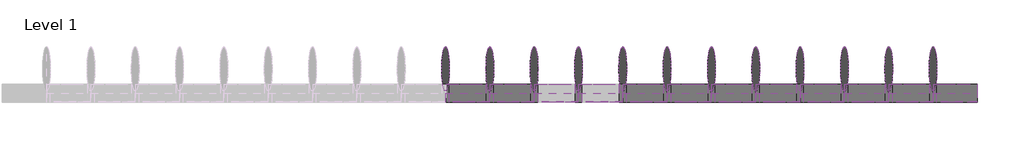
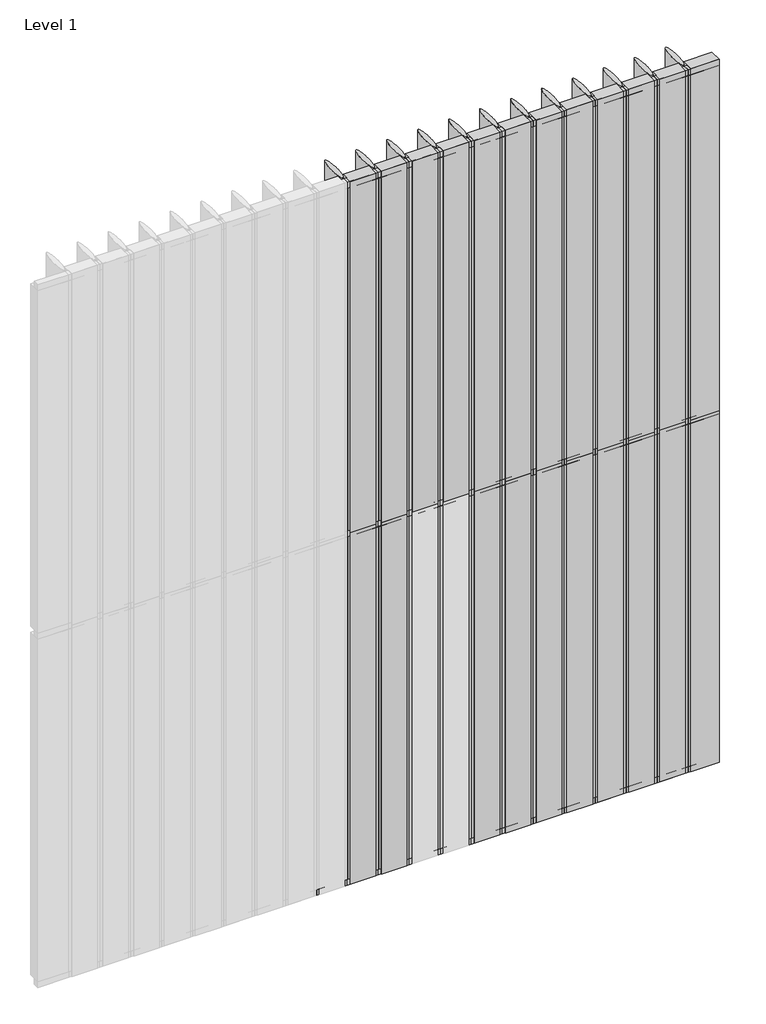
# One storey, part 2 of 2: 61 members, 46 plates.
"""IFC4 building model written with IfcOpenShell, lengths in millimetres."""

import ifcopenshell
import ifcopenshell.guid

model = None  # the IFC model being written
_history = None  # IfcOwnerHistory: only IFC2X3 demands one
_inside = {}  # id of a spatial element -> (the spatial element, [elements in it])
_under = {}  # id of a project, library or spatial element -> (it, [spatial elements below it])
_declared = {}  # id of a project -> (the project, [libraries it declares])
_typed = {}  # id of a type object -> (the type object, [elements of that type])
_made_of = {}  # id of a material, layer set ... -> (it, [elements and type objects made of it])


def new_model(schema):
    """Start an empty IFC model of exactly this schema.

    Asked for "IFC4X3", IfcOpenShell would pick the latest addendum, in which some entities
    have other attributes; the version numbers below select the first issue.
    IFC2X3 requires an IfcOwnerHistory on every rooted entity: one is made here for all.
    """
    global model, _history
    if schema == "IFC4X3":
        model = ifcopenshell.file(schema_version=(4, 3, 0, 0))
    else:
        model = ifcopenshell.file(schema=schema)
    _inside.clear()
    _under.clear()
    _declared.clear()
    _typed.clear()
    _made_of.clear()
    _history = None
    if model.schema == "IFC2X3":
        org = make("IfcOrganization", Name="unknown")
        user = make(
            "IfcPersonAndOrganization",
            ThePerson=make("IfcPerson", FamilyName="unknown"),
            TheOrganization=org,
        )
        app = make(
            "IfcApplication",
            ApplicationDeveloper=org,
            Version="unknown",
            ApplicationFullName="unknown",
            ApplicationIdentifier="unknown",
        )
        _history = make(
            "IfcOwnerHistory",
            OwningUser=user,
            OwningApplication=app,
            ChangeAction="ADDED",
            CreationDate=0,
        )
    return model


def make(cls, **values):
    """One entity of the class cls with the attributes given. An attribute that is None is left unset."""
    return model.create_entity(
        cls, **{name: value for name, value in values.items() if value is not None}
    )


def rooted(cls, **values):
    """An entity with a GlobalId (a new one), such as an element, a storey or a relation."""
    return make(cls, GlobalId=ifcopenshell.guid.new(), OwnerHistory=_history, **values)


def si_unit(unit_type, name, prefix=None):
    """IfcSIUnit, for example si_unit("LENGTHUNIT", "METRE", prefix="MILLI")."""
    return make("IfcSIUnit", UnitType=unit_type, Prefix=prefix, Name=name)


def assignment(units):
    """IfcUnitAssignment: the units of a project."""
    return None if units is None else make("IfcUnitAssignment", Units=units)


def point(xyz):
    """IfcCartesianPoint."""
    return None if xyz is None else make("IfcCartesianPoint", Coordinates=xyz)


def direction(xyz):
    """IfcDirection."""
    return None if xyz is None else make("IfcDirection", DirectionRatios=xyz)


def frame(location, z_axis=None, x_axis=None):
    """IfcAxis2Placement3D, a coordinate frame: its origin and axes. An axis left out is left unset."""
    return make(
        "IfcAxis2Placement3D",
        Location=point(location),
        Axis=direction(z_axis),
        RefDirection=direction(x_axis),
    )


def origin():
    """The frame at (0, 0, 0) with its axes left unset."""
    return frame((0.0, 0.0, 0.0))


def origin_with_axes():
    """The frame at (0, 0, 0) with the z axis (0, 0, 1) and the x axis (1, 0, 0) written out."""
    return frame((0.0, 0.0, 0.0), z_axis=(0.0, 0.0, 1.0), x_axis=(1.0, 0.0, 0.0))


def place(relative_to, where):
    """IfcLocalPlacement: puts the frame where relative to a parent placement (None: the world)."""
    return make(
        "IfcLocalPlacement", PlacementRelTo=relative_to, RelativePlacement=where
    )


def context(
    kind, dimensions, precision=None, world=None, true_north=None, identifier=None
):
    """IfcGeometricRepresentationContext, for example the 3D "Model" context."""
    return make(
        "IfcGeometricRepresentationContext",
        ContextIdentifier=identifier,
        ContextType=kind,
        CoordinateSpaceDimension=dimensions,
        Precision=precision,
        WorldCoordinateSystem=world,
        TrueNorth=true_north,
    )


def project(units=None, contexts=None):
    """IfcProject with its units and contexts."""
    return rooted(
        "IfcProject",
        Name="project",
        RepresentationContexts=contexts,
        UnitsInContext=assignment(units),
    )


def spatial(cls, under=None, at=None, **own):
    """A site, building, storey or space (cls), placed at a placement, below another one or the project."""
    s = rooted(cls, ObjectPlacement=at, **own)
    if under is not None:
        _under.setdefault(under.id(), (under, []))[1].append(s)
    return s


def polyline(points):
    """IfcPolyline through the points."""
    return make("IfcPolyline", Points=[point(p) for p in points])


def ellipse_curve(where, semi_axis1, semi_axis2):
    """IfcEllipse in the frame where."""
    return make(
        "IfcEllipse", Position=where, SemiAxis1=semi_axis1, SemiAxis2=semi_axis2
    )


def trimmed(basis, trim1, trim2, sense, master):
    """IfcTrimmedCurve: the piece of a basis curve between two trims."""
    return make(
        "IfcTrimmedCurve",
        BasisCurve=basis,
        Trim1=trim1,
        Trim2=trim2,
        SenseAgreement=sense,
        MasterRepresentation=master,
    )


def outline(outer, holes=None, kind="AREA"):
    """IfcArbitraryClosedProfileDef: a profile drawn as a closed curve; with holes, ...WithVoids."""
    if holes is None:
        return make("IfcArbitraryClosedProfileDef", ProfileType=kind, OuterCurve=outer)
    return make(
        "IfcArbitraryProfileDefWithVoids",
        ProfileType=kind,
        OuterCurve=outer,
        InnerCurves=holes,
    )


def extrude(swept, where, along, depth):
    """IfcExtrudedAreaSolid: the profile swept, set in the frame where, extruded along a direction by depth."""
    return make(
        "IfcExtrudedAreaSolid",
        SweptArea=swept,
        Position=where,
        ExtrudedDirection=direction(along),
        Depth=depth,
    )


def shape(context_of_items, identifier, shape_type, items):
    """IfcShapeRepresentation: the items that make up one representation, for example the "Body"."""
    return make(
        "IfcShapeRepresentation",
        ContextOfItems=context_of_items,
        RepresentationIdentifier=identifier,
        RepresentationType=shape_type,
        Items=items,
    )


def source(mapping_origin, context_of_items, identifier, shape_type, items):
    """IfcRepresentationMap: a shape defined once, which mapped items show again and again."""
    return make(
        "IfcRepresentationMap",
        MappingOrigin=mapping_origin,
        MappedRepresentation=shape(context_of_items, identifier, shape_type, items),
    )


def transform(
    local_origin,
    x_axis=None,
    y_axis=None,
    z_axis=None,
    scale=None,
    scale2=None,
    scale3=None,
    uniform=True,
):
    """IfcCartesianTransformationOperator3D, or its non-uniform kind. x_axis, y_axis, z_axis: its Axis1, 2, 3."""
    if uniform:
        return make(
            "IfcCartesianTransformationOperator3D",
            Axis1=direction(x_axis),
            Axis2=direction(y_axis),
            LocalOrigin=point(local_origin),
            Scale=scale,
            Axis3=direction(z_axis),
        )
    return make(
        "IfcCartesianTransformationOperator3DnonUniform",
        Axis1=direction(x_axis),
        Axis2=direction(y_axis),
        LocalOrigin=point(local_origin),
        Scale=scale,
        Axis3=direction(z_axis),
        Scale2=scale2,
        Scale3=scale3,
    )


def mapped(mapping_source, mapping_target):
    """IfcMappedItem: shows the shape of a source again, moved by a transform."""
    return make(
        "IfcMappedItem", MappingSource=mapping_source, MappingTarget=mapping_target
    )


def made_of(thing, what):
    """Note that an element or type object is made of a material, layer set ...; save() writes the relation."""
    if what is not None:
        _made_of.setdefault(what.id(), (what, []))[1].append(thing)
    return thing


def element(
    cls,
    number,
    at=None,
    inside=None,
    cuts=None,
    type_object=None,
    material=None,
    context=None,
    identifier="Body",
    shape_type=None,
    held_by="IfcProductDefinitionShape",
    body=None,
    shapes=None,
    **own,
):
    """One element of the class cls, such as IfcWall. Its Tag is "e" and its number.

    at: its placement. inside: the storey or other place that contains it. cuts: it is an
    opening in that element (IfcRelVoidsElement). A single representation is given by context,
    identifier, shape_type and body (its items); several are given by shapes. held_by: the class
    of the entity that holds the representations. save() writes the other relations.
    """
    e = rooted(cls, Tag="e%d" % number, ObjectPlacement=at, **own)
    if body is not None:
        shapes = [shape(context, identifier, shape_type, body)]
    if shapes is not None:
        e.Representation = make(held_by, Representations=shapes)
    if inside is not None:
        _inside.setdefault(inside.id(), (inside, []))[1].append(e)
    if cuts is not None:
        rooted(
            "IfcRelVoidsElement", RelatingBuildingElement=cuts, RelatedOpeningElement=e
        )
    if type_object is not None:
        _typed.setdefault(type_object.id(), (type_object, []))[1].append(e)
    return made_of(e, material)


def aggregate(whole, parts):
    """IfcRelAggregates: a whole, such as a stair, and the parts it consists of."""
    return rooted("IfcRelAggregates", RelatingObject=whole, RelatedObjects=parts)


def save(model, path):
    """Write the relations noted so far, then the file.

    IfcRelAggregates (storeys below a building ...), IfcRelContainedInSpatialStructure (elements
    in a storey), IfcRelDefinesByType, IfcRelAssociatesMaterial and IfcRelDeclares: one each for
    every whole, place, type object, material and project.
    """
    for whole, parts in _under.values():
        aggregate(whole, parts)
    for where, things in _inside.values():
        rooted(
            "IfcRelContainedInSpatialStructure",
            RelatedElements=things,
            RelatingStructure=where,
        )
    for kind, things in _typed.values():
        rooted("IfcRelDefinesByType", RelatedObjects=things, RelatingType=kind)
    for what, things in _made_of.values():
        rooted("IfcRelAssociatesMaterial", RelatedObjects=things, RelatingMaterial=what)
    for by, libraries in _declared.values():
        rooted("IfcRelDeclares", RelatingContext=by, RelatedDefinitions=libraries)
    model.write(path)


def plane_surface(at):
    """IfcPlane: the flat surface through the origin of the frame at, square to its z axis."""
    return make("IfcPlane", Position=at)


def extruded_surface(curve, direction_of_extrusion, depth):
    """IfcSurfaceOfLinearExtrusion: the curve pushed along a direction by depth."""
    return make(
        "IfcSurfaceOfLinearExtrusion",
        SweptCurve=make("IfcArbitraryOpenProfileDef", ProfileType="CURVE", Curve=curve),
        ExtrudedDirection=direction(direction_of_extrusion),
        Depth=depth,
    )


def advanced_brep(points, edges, surfaces, faces):
    """IfcAdvancedBrep: a solid bounded by faces that lie on surfaces and meet in shared edges.

    An edge is (start, end): straight between two places in points (the first is 0);
    or (start, end, curve); or (start, end, curve, False) where it runs against its curve.
    A face is (place in surfaces, loops), or (place, loops, False) where it looks against
    its surface's normal. A loop lists edges by number (the first is 1), with a minus sign
    where the edge is run from its end to its start. The first loop is the outer one.
    """
    corners = [point(p) for p in points]
    vertices = [make("IfcVertexPoint", VertexGeometry=c) for c in corners]
    made = []
    for start, end, *more in edges:
        made.append(
            make(
                "IfcEdgeCurve",
                EdgeStart=vertices[start],
                EdgeEnd=vertices[end],
                EdgeGeometry=more[0] if more else make("IfcPolyline", Points=[corners[start], corners[end]]),
                SameSense=more[1] if len(more) > 1 else True,
            )
        )
    hull = []
    for where, loops, *sense in faces:
        bounds = []
        for j, loop in enumerate(loops):
            ring = [make("IfcOrientedEdge", EdgeElement=made[abs(k) - 1], Orientation=k > 0) for k in loop]
            bounds.append(
                make(
                    "IfcFaceOuterBound" if j == 0 else "IfcFaceBound",
                    Bound=make("IfcEdgeLoop", EdgeList=ring),
                    Orientation=True,
                )
            )
        hull.append(make("IfcAdvancedFace", Bounds=bounds, FaceSurface=surfaces[where], SameSense=sense[0] if sense else True))
    return make("IfcAdvancedBrep", Outer=make("IfcClosedShell", CfsFaces=hull))


def rectangular_mullion_1c901da9(model_context):
    return source(origin(), model_context, "Body", "AdvancedBrep", [
        advanced_brep(
        [(0.0, 13.0, 0.0), (0.0, 263.0, 0.0), (0.0, 13.0, -3000.0), (0.0, 263.0, -3000.0)],
        [
            (0, 1, ellipse_curve(frame((0.0, 138.0, 0.0), z_axis=(0.0, 0.0, 1.0), x_axis=(0.0, 1.0, 0.0)), 125.0, 21.75)),
            (1, 0, ellipse_curve(frame((0.0, 138.0, 0.0), z_axis=(0.0, 0.0, 1.0), x_axis=(0.0, 1.0, 0.0)), 125.0, 21.75)),
            (2, 3, ellipse_curve(frame((0.0, 138.0, -3000.0), z_axis=(0.0, 0.0, -1.0), x_axis=(0.0, 1.0, 0.0)), 125.0, 21.75)),
            (3, 2, ellipse_curve(frame((0.0, 138.0, -3000.0), z_axis=(0.0, 0.0, -1.0), x_axis=(0.0, 1.0, 0.0)), 125.0, 21.75)),
            (0, 2),
            (3, 1),
        ],
        [
            plane_surface(frame((0.0, -263.0, 0.0), z_axis=(0.0, 0.0, 1.0), x_axis=(-1.0, 0.0, 0.0))),
            plane_surface(frame((0.0, -263.0, -3000.0), z_axis=(0.0, 0.0, -1.0), x_axis=(-1.0, 0.0, 0.0))),
            extruded_surface(trimmed(ellipse_curve(frame((0.0, 138.0, -3000.0), z_axis=(0.0, 0.0, 1.0), x_axis=(0.0, 1.0, 0.0)), 125.0, 21.75), [point((0.0, 13.0, -3000.0))], [point((0.0, 263.0, -3000.0))], True, "CARTESIAN"), (0.0, 0.0, 3000.0), 3000.0),
            extruded_surface(trimmed(ellipse_curve(frame((0.0, 138.0, -3000.0), z_axis=(0.0, 0.0, 1.0), x_axis=(0.0, 1.0, 0.0)), 125.0, 21.75), [point((0.0, 263.0, -3000.0))], [point((0.0, 13.0, -3000.0))], True, "CARTESIAN"), (0.0, 0.0, 3000.0), 3000.0),
        ],
        [
            (0, [[1, 2]]),
            (1, [[3, 4]]),
            (2, [[-1, 5, -4, 6]]),
            (3, [[-2, -6, -3, -5]]),
        ],
    ),
    ])


def rectangular_mullion_b779000f(model_context):
    return source(origin(), model_context, "Body", "SweptSolid", [
        extrude(outline(polyline([(-50.0, 1.0), (0.0, 1.0), (0.0, -49.0), (-50.0, -49.0), (-50.0, 1.0)])), frame((0.0, 0.0, -250.0), z_axis=(0.0, 0.0, 1.0), x_axis=(1.0, 0.0, 0.0)), (0.0, 0.0, 1.0), 250.0),
    ])


def rectangular_mullion_eeaea343(model_context):
    return source(origin(), model_context, "Body", "SweptSolid", [
        extrude(outline(polyline([(0.0, 1.0), (0.0, -49.0), (-50.0, -49.0), (-50.0, 1.0), (0.0, 1.0)])), frame((0.0, 0.0, -250.0), z_axis=(0.0, 0.0, 1.0), x_axis=(1.0, 0.0, 0.0)), (0.0, 0.0, 1.0), 250.0),
    ])


def rectangular_mullion_552ac5bc(model_context):
    return source(origin(), model_context, "Body", "SweptSolid", [
        extrude(outline(polyline([(25.0, 1.0), (25.0, -49.0), (-25.0, -49.0), (-25.0, 1.0), (25.0, 1.0)])), frame((0.0, 0.0, -250.0), z_axis=(0.0, 0.0, 1.0), x_axis=(1.0, 0.0, 0.0)), (0.0, 0.0, 1.0), 250.0),
    ])


def empty_system_panel_empty_666dd941(model_context):
    return source(origin(), model_context, "Body", "SweptSolid", [
        extrude(outline(polyline([(114.125, -50.0), (-114.125, -50.0), (-114.125, 50.0), (114.125, 50.0), (114.125, -50.0)])), origin_with_axes(), (0.0, 0.0, 1.0), 3000.0),
    ])


def empty_system_panel_empty_d58eecfa(model_context):
    return source(origin(), model_context, "Body", "SweptSolid", [
        extrude(outline(polyline([(103.25, -50.0), (-103.25, -50.0), (-103.25, 50.0), (103.25, 50.0), (103.25, -50.0)])), origin_with_axes(), (0.0, 0.0, 1.0), 3000.0),
    ])


def empty_system_panel_empty_93422e2e(model_context):
    return source(origin(), model_context, "Body", "SweptSolid", [
        extrude(outline(polyline([(125.0, -50.0), (-125.0, -50.0), (-125.0, 50.0), (125.0, 50.0), (125.0, -50.0)])), origin_with_axes(), (0.0, 0.0, 1.0), 2925.0),
    ])


model = new_model("IFC4")

# Units and contexts
model_context = context("Model", 3, world=origin())
ifc_project = project(units=[si_unit("LENGTHUNIT", "METRE", prefix="MILLI")], contexts=[model_context])

# Site, building, storey
site = spatial("IfcSite", under=ifc_project)
building = spatial("IfcBuilding", under=site)
storey = spatial("IfcBuildingStorey", under=building, Name="Level 1", Elevation=0.0)

# Members
placement = place(None, origin())
rectangular_mullion_shape = rectangular_mullion_1c901da9(model_context)
element("IfcMember", 1, ObjectType="Rectangular Mullion : RSen_21_CWM_blade - 250 ellips - 0°_gen_duco projects", at=placement, inside=storey, context=model_context, shape_type="MappedRepresentation", body=[
    mapped(rectangular_mullion_shape, transform((5750.0, 3000.0, 0.0), x_axis=(-1.0, 0.0, 0.0), y_axis=(0.0, 1.0, 0.0), z_axis=(0.0, 0.0, -1.0))),
])
element("IfcMember", 2, ObjectType="Rectangular Mullion : RSen_21_CWM_blade - 250 ellips - 0°_gen_duco projects", at=placement, inside=storey, context=model_context, shape_type="MappedRepresentation", body=[
    mapped(rectangular_mullion_shape, transform((5500.0, 3000.0, 0.0), x_axis=(-1.0, 0.0, 0.0), y_axis=(0.0, 1.0, 0.0), z_axis=(0.0, 0.0, -1.0))),
])
element("IfcMember", 3, ObjectType="Rectangular Mullion : RSen_21_CWM_blade - 250 ellips - 0°_gen_duco projects", at=placement, inside=storey, context=model_context, shape_type="MappedRepresentation", body=[
    mapped(rectangular_mullion_shape, transform((5250.0, 3000.0, 0.0), x_axis=(-1.0, 0.0, 0.0), y_axis=(0.0, 1.0, 0.0), z_axis=(0.0, 0.0, -1.0))),
])
element("IfcMember", 4, ObjectType="Rectangular Mullion : RSen_21_CWM_blade - 250 ellips - 0°_gen_duco projects", at=placement, inside=storey, context=model_context, shape_type="MappedRepresentation", body=[
    mapped(rectangular_mullion_shape, transform((5000.0, 3000.0, 0.0), x_axis=(-1.0, 0.0, 0.0), y_axis=(0.0, 1.0, 0.0), z_axis=(0.0, 0.0, -1.0))),
])
element("IfcMember", 5, ObjectType="Rectangular Mullion : RSen_21_CWM_blade - 250 ellips - 0°_gen_duco projects", at=placement, inside=storey, context=model_context, shape_type="MappedRepresentation", body=[
    mapped(rectangular_mullion_shape, transform((4750.0, 3000.0, 0.0), x_axis=(-1.0, 0.0, 0.0), y_axis=(0.0, 1.0, 0.0), z_axis=(0.0, 0.0, -1.0))),
])
element("IfcMember", 6, ObjectType="Rectangular Mullion : RSen_21_CWM_blade - 250 ellips - 0°_gen_duco projects", at=placement, inside=storey, context=model_context, shape_type="MappedRepresentation", body=[
    mapped(rectangular_mullion_shape, transform((4500.0, 3000.0, 0.0), x_axis=(-1.0, 0.0, 0.0), y_axis=(0.0, 1.0, 0.0), z_axis=(0.0, 0.0, -1.0))),
])
element("IfcMember", 7, ObjectType="Rectangular Mullion : RSen_21_CWM_blade - 250 ellips - 0°_gen_duco projects", at=placement, inside=storey, context=model_context, shape_type="MappedRepresentation", body=[
    mapped(rectangular_mullion_shape, transform((4250.0, 3000.0, 0.0), x_axis=(-1.0, 0.0, 0.0), y_axis=(0.0, 1.0, 0.0), z_axis=(0.0, 0.0, -1.0))),
])
element("IfcMember", 8, ObjectType="Rectangular Mullion : RSen_21_CWM_blade - 250 ellips - 0°_gen_duco projects", at=placement, inside=storey, context=model_context, shape_type="MappedRepresentation", body=[
    mapped(rectangular_mullion_shape, transform((4000.0, 3000.0, 0.0), x_axis=(-1.0, 0.0, 0.0), y_axis=(0.0, 1.0, 0.0), z_axis=(0.0, 0.0, -1.0))),
])
element("IfcMember", 9, ObjectType="Rectangular Mullion : RSen_21_CWM_blade - 250 ellips - 0°_gen_duco projects", at=placement, inside=storey, context=model_context, shape_type="MappedRepresentation", body=[
    mapped(rectangular_mullion_shape, transform((3750.0, 3000.0, 0.0), x_axis=(-1.0, 0.0, 0.0), y_axis=(0.0, 1.0, 0.0), z_axis=(0.0, 0.0, -1.0))),
])
element("IfcMember", 10, ObjectType="Rectangular Mullion : RSen_21_CWM_blade - 250 ellips - 0°_gen_duco projects", at=placement, inside=storey, context=model_context, shape_type="MappedRepresentation", body=[
    mapped(rectangular_mullion_shape, transform((3500.0, 3000.0, 0.0), x_axis=(-1.0, 0.0, 0.0), y_axis=(0.0, 1.0, 0.0), z_axis=(0.0, 0.0, -1.0))),
])
element("IfcMember", 11, ObjectType="Rectangular Mullion : RSen_21_CWM_blade - 250 ellips - 0°_gen_duco projects", at=placement, inside=storey, context=model_context, shape_type="MappedRepresentation", body=[
    mapped(rectangular_mullion_shape, transform((3250.0, 3000.0, 0.0), x_axis=(-1.0, 0.0, 0.0), y_axis=(0.0, 1.0, 0.0), z_axis=(0.0, 0.0, -1.0))),
])
element("IfcMember", 12, ObjectType="Rectangular Mullion : RSen_21_CWM_blade - 250 ellips - 0°_gen_duco projects", at=placement, inside=storey, context=model_context, shape_type="MappedRepresentation", body=[
    mapped(rectangular_mullion_shape, transform((3000.0, 3000.0, 0.0), x_axis=(-1.0, 0.0, 0.0), y_axis=(0.0, 1.0, 0.0), z_axis=(0.0, 0.0, -1.0))),
])
element("IfcMember", 13, ObjectType="Rectangular Mullion : RSen_21_CWM_blade - 250 ellips - 0°_gen_duco projects", at=placement, inside=storey, context=model_context, shape_type="MappedRepresentation", body=[
    mapped(rectangular_mullion_shape, transform((5750.0, 3000.0, 3000.0), x_axis=(-1.0, 0.0, 0.0), y_axis=(0.0, 1.0, 0.0), z_axis=(0.0, 0.0, -1.0))),
])
element("IfcMember", 14, ObjectType="Rectangular Mullion : RSen_21_CWM_blade - 250 ellips - 0°_gen_duco projects", at=placement, inside=storey, context=model_context, shape_type="MappedRepresentation", body=[
    mapped(rectangular_mullion_shape, transform((5500.0, 3000.0, 3000.0), x_axis=(-1.0, 0.0, 0.0), y_axis=(0.0, 1.0, 0.0), z_axis=(0.0, 0.0, -1.0))),
])
element("IfcMember", 15, ObjectType="Rectangular Mullion : RSen_21_CWM_blade - 250 ellips - 0°_gen_duco projects", at=placement, inside=storey, context=model_context, shape_type="MappedRepresentation", body=[
    mapped(rectangular_mullion_shape, transform((5250.0, 3000.0, 3000.0), x_axis=(-1.0, 0.0, 0.0), y_axis=(0.0, 1.0, 0.0), z_axis=(0.0, 0.0, -1.0))),
])
element("IfcMember", 16, ObjectType="Rectangular Mullion : RSen_21_CWM_blade - 250 ellips - 0°_gen_duco projects", at=placement, inside=storey, context=model_context, shape_type="MappedRepresentation", body=[
    mapped(rectangular_mullion_shape, transform((5000.0, 3000.0, 3000.0), x_axis=(-1.0, 0.0, 0.0), y_axis=(0.0, 1.0, 0.0), z_axis=(0.0, 0.0, -1.0))),
])
element("IfcMember", 17, ObjectType="Rectangular Mullion : RSen_21_CWM_blade - 250 ellips - 0°_gen_duco projects", at=placement, inside=storey, context=model_context, shape_type="MappedRepresentation", body=[
    mapped(rectangular_mullion_shape, transform((4750.0, 3000.0, 3000.0), x_axis=(-1.0, 0.0, 0.0), y_axis=(0.0, 1.0, 0.0), z_axis=(0.0, 0.0, -1.0))),
])
element("IfcMember", 18, ObjectType="Rectangular Mullion : RSen_21_CWM_blade - 250 ellips - 0°_gen_duco projects", at=placement, inside=storey, context=model_context, shape_type="MappedRepresentation", body=[
    mapped(rectangular_mullion_shape, transform((4500.0, 3000.0, 3000.0), x_axis=(-1.0, 0.0, 0.0), y_axis=(0.0, 1.0, 0.0), z_axis=(0.0, 0.0, -1.0))),
])
element("IfcMember", 19, ObjectType="Rectangular Mullion : RSen_21_CWM_blade - 250 ellips - 0°_gen_duco projects", at=placement, inside=storey, context=model_context, shape_type="MappedRepresentation", body=[
    mapped(rectangular_mullion_shape, transform((4250.0, 3000.0, 3000.0), x_axis=(-1.0, 0.0, 0.0), y_axis=(0.0, 1.0, 0.0), z_axis=(0.0, 0.0, -1.0))),
])
element("IfcMember", 20, ObjectType="Rectangular Mullion : RSen_21_CWM_blade - 250 ellips - 0°_gen_duco projects", at=placement, inside=storey, context=model_context, shape_type="MappedRepresentation", body=[
    mapped(rectangular_mullion_shape, transform((4000.0, 3000.0, 3000.0), x_axis=(-1.0, 0.0, 0.0), y_axis=(0.0, 1.0, 0.0), z_axis=(0.0, 0.0, -1.0))),
])
element("IfcMember", 21, ObjectType="Rectangular Mullion : RSen_21_CWM_blade - 250 ellips - 0°_gen_duco projects", at=placement, inside=storey, context=model_context, shape_type="MappedRepresentation", body=[
    mapped(rectangular_mullion_shape, transform((3750.0, 3000.0, 3000.0), x_axis=(-1.0, 0.0, 0.0), y_axis=(0.0, 1.0, 0.0), z_axis=(0.0, 0.0, -1.0))),
])
element("IfcMember", 22, ObjectType="Rectangular Mullion : RSen_21_CWM_blade - 250 ellips - 0°_gen_duco projects", at=placement, inside=storey, context=model_context, shape_type="MappedRepresentation", body=[
    mapped(rectangular_mullion_shape, transform((3500.0, 3000.0, 3000.0), x_axis=(-1.0, 0.0, 0.0), y_axis=(0.0, 1.0, 0.0), z_axis=(0.0, 0.0, -1.0))),
])
element("IfcMember", 23, ObjectType="Rectangular Mullion : RSen_21_CWM_blade - 250 ellips - 0°_gen_duco projects", at=placement, inside=storey, context=model_context, shape_type="MappedRepresentation", body=[
    mapped(rectangular_mullion_shape, transform((3250.0, 3000.0, 3000.0), x_axis=(-1.0, 0.0, 0.0), y_axis=(0.0, 1.0, 0.0), z_axis=(0.0, 0.0, -1.0))),
])
element("IfcMember", 24, ObjectType="Rectangular Mullion : RSen_21_CWM_blade - 250 ellips - 0°_gen_duco projects", at=placement, inside=storey, context=model_context, shape_type="MappedRepresentation", body=[
    mapped(rectangular_mullion_shape, transform((3000.0, 3000.0, 3000.0), x_axis=(-1.0, 0.0, 0.0), y_axis=(0.0, 1.0, 0.0), z_axis=(0.0, 0.0, -1.0))),
])
rectangular_mullion_2_shape = rectangular_mullion_b779000f(model_context)
element("IfcMember", 25, ObjectType="Rectangular Mullion : RSen_21_CWM_support profile 50x50 - right_gen_duco projects", at=placement, inside=storey, context=model_context, shape_type="MappedRepresentation", body=[
    mapped(rectangular_mullion_2_shape, transform((6000.0, 3000.0, 0.0), x_axis=(0.0, 0.0, -1.0), y_axis=(0.0, 1.0, 0.0), z_axis=(1.0, 0.0, 0.0))),
])
rectangular_mullion_3_shape = rectangular_mullion_eeaea343(model_context)
element("IfcMember", 26, ObjectType="Rectangular Mullion : RSen_21_CWM_support profile 50x50 - left_gen_duco projects", at=placement, inside=storey, context=model_context, shape_type="MappedRepresentation", body=[
    mapped(rectangular_mullion_3_shape, transform((5750.0, 3000.0, 6000.0), x_axis=(0.0, 0.0, 1.0), y_axis=(0.0, 1.0, 0.0), z_axis=(-1.0, 0.0, 0.0))),
])
element("IfcMember", 27, ObjectType="Rectangular Mullion : RSen_21_CWM_support profile 50x50 - left_gen_duco projects", at=placement, inside=storey, context=model_context, shape_type="MappedRepresentation", body=[
    mapped(rectangular_mullion_3_shape, transform((5500.0, 3000.0, 6000.0), x_axis=(0.0, 0.0, 1.0), y_axis=(0.0, 1.0, 0.0), z_axis=(-1.0, 0.0, 0.0))),
])
element("IfcMember", 28, ObjectType="Rectangular Mullion : RSen_21_CWM_support profile 50x50 - left_gen_duco projects", at=placement, inside=storey, context=model_context, shape_type="MappedRepresentation", body=[
    mapped(rectangular_mullion_3_shape, transform((5250.0, 3000.0, 6000.0), x_axis=(0.0, 0.0, 1.0), y_axis=(0.0, 1.0, 0.0), z_axis=(-1.0, 0.0, 0.0))),
])
element("IfcMember", 29, ObjectType="Rectangular Mullion : RSen_21_CWM_support profile 50x50 - left_gen_duco projects", at=placement, inside=storey, context=model_context, shape_type="MappedRepresentation", body=[
    mapped(rectangular_mullion_3_shape, transform((5000.0, 3000.0, 6000.0), x_axis=(0.0, 0.0, 1.0), y_axis=(0.0, 1.0, 0.0), z_axis=(-1.0, 0.0, 0.0))),
])
element("IfcMember", 30, ObjectType="Rectangular Mullion : RSen_21_CWM_support profile 50x50 - left_gen_duco projects", at=placement, inside=storey, context=model_context, shape_type="MappedRepresentation", body=[
    mapped(rectangular_mullion_3_shape, transform((4750.0, 3000.0, 6000.0), x_axis=(0.0, 0.0, 1.0), y_axis=(0.0, 1.0, 0.0), z_axis=(-1.0, 0.0, 0.0))),
])
element("IfcMember", 31, ObjectType="Rectangular Mullion : RSen_21_CWM_support profile 50x50 - left_gen_duco projects", at=placement, inside=storey, context=model_context, shape_type="MappedRepresentation", body=[
    mapped(rectangular_mullion_3_shape, transform((4500.0, 3000.0, 6000.0), x_axis=(0.0, 0.0, 1.0), y_axis=(0.0, 1.0, 0.0), z_axis=(-1.0, 0.0, 0.0))),
])
element("IfcMember", 32, ObjectType="Rectangular Mullion : RSen_21_CWM_support profile 50x50 - left_gen_duco projects", at=placement, inside=storey, context=model_context, shape_type="MappedRepresentation", body=[
    mapped(rectangular_mullion_3_shape, transform((4250.0, 3000.0, 6000.0), x_axis=(0.0, 0.0, 1.0), y_axis=(0.0, 1.0, 0.0), z_axis=(-1.0, 0.0, 0.0))),
])
element("IfcMember", 33, ObjectType="Rectangular Mullion : RSen_21_CWM_support profile 50x50 - left_gen_duco projects", at=placement, inside=storey, context=model_context, shape_type="MappedRepresentation", body=[
    mapped(rectangular_mullion_3_shape, transform((4000.0, 3000.0, 6000.0), x_axis=(0.0, 0.0, 1.0), y_axis=(0.0, 1.0, 0.0), z_axis=(-1.0, 0.0, 0.0))),
])
element("IfcMember", 34, ObjectType="Rectangular Mullion : RSen_21_CWM_support profile 50x50 - left_gen_duco projects", at=placement, inside=storey, context=model_context, shape_type="MappedRepresentation", body=[
    mapped(rectangular_mullion_3_shape, transform((3750.0, 3000.0, 6000.0), x_axis=(0.0, 0.0, 1.0), y_axis=(0.0, 1.0, 0.0), z_axis=(-1.0, 0.0, 0.0))),
])
element("IfcMember", 35, ObjectType="Rectangular Mullion : RSen_21_CWM_support profile 50x50 - left_gen_duco projects", at=placement, inside=storey, context=model_context, shape_type="MappedRepresentation", body=[
    mapped(rectangular_mullion_3_shape, transform((3500.0, 3000.0, 6000.0), x_axis=(0.0, 0.0, 1.0), y_axis=(0.0, 1.0, 0.0), z_axis=(-1.0, 0.0, 0.0))),
])
element("IfcMember", 36, ObjectType="Rectangular Mullion : RSen_21_CWM_support profile 50x50 - left_gen_duco projects", at=placement, inside=storey, context=model_context, shape_type="MappedRepresentation", body=[
    mapped(rectangular_mullion_3_shape, transform((3250.0, 3000.0, 6000.0), x_axis=(0.0, 0.0, 1.0), y_axis=(0.0, 1.0, 0.0), z_axis=(-1.0, 0.0, 0.0))),
])
element("IfcMember", 37, ObjectType="Rectangular Mullion : RSen_21_CWM_support profile 50x50 - left_gen_duco projects", at=placement, inside=storey, context=model_context, shape_type="MappedRepresentation", body=[
    mapped(rectangular_mullion_3_shape, transform((3000.0, 3000.0, 6000.0), x_axis=(0.0, 0.0, 1.0), y_axis=(0.0, 1.0, 0.0), z_axis=(-1.0, 0.0, 0.0))),
])
element("IfcMember", 38, ObjectType="Rectangular Mullion : RSen_21_CWM_support profile 50x50 - right_gen_duco projects", at=placement, inside=storey, context=model_context, shape_type="MappedRepresentation", body=[
    mapped(rectangular_mullion_2_shape, transform((5750.0, 3000.0, 0.0), x_axis=(0.0, 0.0, -1.0), y_axis=(0.0, 1.0, 0.0), z_axis=(1.0, 0.0, 0.0))),
])
element("IfcMember", 39, ObjectType="Rectangular Mullion : RSen_21_CWM_support profile 50x50 - right_gen_duco projects", at=placement, inside=storey, context=model_context, shape_type="MappedRepresentation", body=[
    mapped(rectangular_mullion_2_shape, transform((5500.0, 3000.0, 0.0), x_axis=(0.0, 0.0, -1.0), y_axis=(0.0, 1.0, 0.0), z_axis=(1.0, 0.0, 0.0))),
])
element("IfcMember", 40, ObjectType="Rectangular Mullion : RSen_21_CWM_support profile 50x50 - right_gen_duco projects", at=placement, inside=storey, context=model_context, shape_type="MappedRepresentation", body=[
    mapped(rectangular_mullion_2_shape, transform((5250.0, 3000.0, 0.0), x_axis=(0.0, 0.0, -1.0), y_axis=(0.0, 1.0, 0.0), z_axis=(1.0, 0.0, 0.0))),
])
element("IfcMember", 41, ObjectType="Rectangular Mullion : RSen_21_CWM_support profile 50x50 - right_gen_duco projects", at=placement, inside=storey, context=model_context, shape_type="MappedRepresentation", body=[
    mapped(rectangular_mullion_2_shape, transform((5000.0, 3000.0, 0.0), x_axis=(0.0, 0.0, -1.0), y_axis=(0.0, 1.0, 0.0), z_axis=(1.0, 0.0, 0.0))),
])
element("IfcMember", 42, ObjectType="Rectangular Mullion : RSen_21_CWM_support profile 50x50 - right_gen_duco projects", at=placement, inside=storey, context=model_context, shape_type="MappedRepresentation", body=[
    mapped(rectangular_mullion_2_shape, transform((4750.0, 3000.0, 0.0), x_axis=(0.0, 0.0, -1.0), y_axis=(0.0, 1.0, 0.0), z_axis=(1.0, 0.0, 0.0))),
])
element("IfcMember", 43, ObjectType="Rectangular Mullion : RSen_21_CWM_support profile 50x50 - right_gen_duco projects", at=placement, inside=storey, context=model_context, shape_type="MappedRepresentation", body=[
    mapped(rectangular_mullion_2_shape, transform((4500.0, 3000.0, 0.0), x_axis=(0.0, 0.0, -1.0), y_axis=(0.0, 1.0, 0.0), z_axis=(1.0, 0.0, 0.0))),
])
element("IfcMember", 44, ObjectType="Rectangular Mullion : RSen_21_CWM_support profile 50x50 - right_gen_duco projects", at=placement, inside=storey, context=model_context, shape_type="MappedRepresentation", body=[
    mapped(rectangular_mullion_2_shape, transform((4250.0, 3000.0, 0.0), x_axis=(0.0, 0.0, -1.0), y_axis=(0.0, 1.0, 0.0), z_axis=(1.0, 0.0, 0.0))),
])
element("IfcMember", 45, ObjectType="Rectangular Mullion : RSen_21_CWM_support profile 50x50 - right_gen_duco projects", at=placement, inside=storey, context=model_context, shape_type="MappedRepresentation", body=[
    mapped(rectangular_mullion_2_shape, transform((4000.0, 3000.0, 0.0), x_axis=(0.0, 0.0, -1.0), y_axis=(0.0, 1.0, 0.0), z_axis=(1.0, 0.0, 0.0))),
])
element("IfcMember", 46, ObjectType="Rectangular Mullion : RSen_21_CWM_support profile 50x50 - right_gen_duco projects", at=placement, inside=storey, context=model_context, shape_type="MappedRepresentation", body=[
    mapped(rectangular_mullion_2_shape, transform((3750.0, 3000.0, 0.0), x_axis=(0.0, 0.0, -1.0), y_axis=(0.0, 1.0, 0.0), z_axis=(1.0, 0.0, 0.0))),
])
element("IfcMember", 47, ObjectType="Rectangular Mullion : RSen_21_CWM_support profile 50x50 - right_gen_duco projects", at=placement, inside=storey, context=model_context, shape_type="MappedRepresentation", body=[
    mapped(rectangular_mullion_2_shape, transform((3500.0, 3000.0, 0.0), x_axis=(0.0, 0.0, -1.0), y_axis=(0.0, 1.0, 0.0), z_axis=(1.0, 0.0, 0.0))),
])
element("IfcMember", 48, ObjectType="Rectangular Mullion : RSen_21_CWM_support profile 50x50 - right_gen_duco projects", at=placement, inside=storey, context=model_context, shape_type="MappedRepresentation", body=[
    mapped(rectangular_mullion_2_shape, transform((3250.0, 3000.0, 0.0), x_axis=(0.0, 0.0, -1.0), y_axis=(0.0, 1.0, 0.0), z_axis=(1.0, 0.0, 0.0))),
])
element("IfcMember", 49, ObjectType="Rectangular Mullion : RSen_21_CWM_support profile 50x50 - right_gen_duco projects", at=placement, inside=storey, context=model_context, shape_type="MappedRepresentation", body=[
    mapped(rectangular_mullion_2_shape, transform((3000.0, 3000.0, 0.0), x_axis=(0.0, 0.0, -1.0), y_axis=(0.0, 1.0, 0.0), z_axis=(1.0, 0.0, 0.0))),
])
rectangular_mullion_4_shape = rectangular_mullion_552ac5bc(model_context)
element("IfcMember", 50, ObjectType="Rectangular Mullion : RSen_21_CWM_support profile 50x50_gen_duco projects", at=placement, inside=storey, context=model_context, shape_type="MappedRepresentation", body=[
    mapped(rectangular_mullion_4_shape, transform((5750.0, 3000.0, 3000.0), x_axis=(0.0, 0.0, 1.0), y_axis=(0.0, 1.0, 0.0), z_axis=(-1.0, 0.0, 0.0))),
])
element("IfcMember", 51, ObjectType="Rectangular Mullion : RSen_21_CWM_support profile 50x50_gen_duco projects", at=placement, inside=storey, context=model_context, shape_type="MappedRepresentation", body=[
    mapped(rectangular_mullion_4_shape, transform((5500.0, 3000.0, 3000.0), x_axis=(0.0, 0.0, 1.0), y_axis=(0.0, 1.0, 0.0), z_axis=(-1.0, 0.0, 0.0))),
])
element("IfcMember", 52, ObjectType="Rectangular Mullion : RSen_21_CWM_support profile 50x50_gen_duco projects", at=placement, inside=storey, context=model_context, shape_type="MappedRepresentation", body=[
    mapped(rectangular_mullion_4_shape, transform((5250.0, 3000.0, 3000.0), x_axis=(0.0, 0.0, 1.0), y_axis=(0.0, 1.0, 0.0), z_axis=(-1.0, 0.0, 0.0))),
])
element("IfcMember", 53, ObjectType="Rectangular Mullion : RSen_21_CWM_support profile 50x50_gen_duco projects", at=placement, inside=storey, context=model_context, shape_type="MappedRepresentation", body=[
    mapped(rectangular_mullion_4_shape, transform((5000.0, 3000.0, 3000.0), x_axis=(0.0, 0.0, 1.0), y_axis=(0.0, 1.0, 0.0), z_axis=(-1.0, 0.0, 0.0))),
])
element("IfcMember", 54, ObjectType="Rectangular Mullion : RSen_21_CWM_support profile 50x50_gen_duco projects", at=placement, inside=storey, context=model_context, shape_type="MappedRepresentation", body=[
    mapped(rectangular_mullion_4_shape, transform((4750.0, 3000.0, 3000.0), x_axis=(0.0, 0.0, 1.0), y_axis=(0.0, 1.0, 0.0), z_axis=(-1.0, 0.0, 0.0))),
])
element("IfcMember", 55, ObjectType="Rectangular Mullion : RSen_21_CWM_support profile 50x50_gen_duco projects", at=placement, inside=storey, context=model_context, shape_type="MappedRepresentation", body=[
    mapped(rectangular_mullion_4_shape, transform((4500.0, 3000.0, 3000.0), x_axis=(0.0, 0.0, 1.0), y_axis=(0.0, 1.0, 0.0), z_axis=(-1.0, 0.0, 0.0))),
])
element("IfcMember", 56, ObjectType="Rectangular Mullion : RSen_21_CWM_support profile 50x50_gen_duco projects", at=placement, inside=storey, context=model_context, shape_type="MappedRepresentation", body=[
    mapped(rectangular_mullion_4_shape, transform((4250.0, 3000.0, 3000.0), x_axis=(0.0, 0.0, 1.0), y_axis=(0.0, 1.0, 0.0), z_axis=(-1.0, 0.0, 0.0))),
])
element("IfcMember", 57, ObjectType="Rectangular Mullion : RSen_21_CWM_support profile 50x50_gen_duco projects", at=placement, inside=storey, context=model_context, shape_type="MappedRepresentation", body=[
    mapped(rectangular_mullion_4_shape, transform((4000.0, 3000.0, 3000.0), x_axis=(0.0, 0.0, 1.0), y_axis=(0.0, 1.0, 0.0), z_axis=(-1.0, 0.0, 0.0))),
])
element("IfcMember", 58, ObjectType="Rectangular Mullion : RSen_21_CWM_support profile 50x50_gen_duco projects", at=placement, inside=storey, context=model_context, shape_type="MappedRepresentation", body=[
    mapped(rectangular_mullion_4_shape, transform((3750.0, 3000.0, 3000.0), x_axis=(0.0, 0.0, 1.0), y_axis=(0.0, 1.0, 0.0), z_axis=(-1.0, 0.0, 0.0))),
])
element("IfcMember", 59, ObjectType="Rectangular Mullion : RSen_21_CWM_support profile 50x50_gen_duco projects", at=placement, inside=storey, context=model_context, shape_type="MappedRepresentation", body=[
    mapped(rectangular_mullion_4_shape, transform((3500.0, 3000.0, 3000.0), x_axis=(0.0, 0.0, 1.0), y_axis=(0.0, 1.0, 0.0), z_axis=(-1.0, 0.0, 0.0))),
])
element("IfcMember", 60, ObjectType="Rectangular Mullion : RSen_21_CWM_support profile 50x50_gen_duco projects", at=placement, inside=storey, context=model_context, shape_type="MappedRepresentation", body=[
    mapped(rectangular_mullion_4_shape, transform((3250.0, 3000.0, 3000.0), x_axis=(0.0, 0.0, 1.0), y_axis=(0.0, 1.0, 0.0), z_axis=(-1.0, 0.0, 0.0))),
])
element("IfcMember", 61, ObjectType="Rectangular Mullion : RSen_21_CWM_support profile 50x50_gen_duco projects", at=placement, inside=storey, context=model_context, shape_type="MappedRepresentation", body=[
    mapped(rectangular_mullion_4_shape, transform((3000.0, 3000.0, 3000.0), x_axis=(0.0, 0.0, 1.0), y_axis=(0.0, 1.0, 0.0), z_axis=(-1.0, 0.0, 0.0))),
])

# Plates
empty_system_panel_empty_shape = empty_system_panel_empty_666dd941(model_context)
element("IfcPlate", 62, ObjectType="Empty System Panel : Empty", at=placement, inside=storey, context=model_context, shape_type="MappedRepresentation", body=[
    mapped(empty_system_panel_empty_shape, transform((5885.875, 3000.0, 0.0), x_axis=(-1.0, 0.0, 0.0), y_axis=(0.0, -1.0, 0.0), z_axis=(0.0, 0.0, 1.0))),
])
element("IfcPlate", 63, ObjectType="Empty System Panel : Empty", at=placement, inside=storey, context=model_context, shape_type="MappedRepresentation", body=[
    mapped(empty_system_panel_empty_shape, transform((5885.875, 3000.0, 3000.0), x_axis=(-1.0, 0.0, 0.0), y_axis=(0.0, -1.0, 0.0), z_axis=(0.0, 0.0, 1.0))),
])
empty_system_panel_empty_2_shape = empty_system_panel_empty_d58eecfa(model_context)
element("IfcPlate", 64, ObjectType="Empty System Panel : Empty", at=placement, inside=storey, context=model_context, shape_type="MappedRepresentation", body=[
    mapped(empty_system_panel_empty_2_shape, transform((5625.0, 3000.0, 0.0), x_axis=(-1.0, 0.0, 0.0), y_axis=(0.0, -1.0, 0.0), z_axis=(0.0, 0.0, 1.0))),
])
element("IfcPlate", 65, ObjectType="Empty System Panel : Empty", at=placement, inside=storey, context=model_context, shape_type="MappedRepresentation", body=[
    mapped(empty_system_panel_empty_2_shape, transform((5375.0, 3000.0, 0.0), x_axis=(-1.0, 0.0, 0.0), y_axis=(0.0, -1.0, 0.0), z_axis=(0.0, 0.0, 1.0))),
])
element("IfcPlate", 66, ObjectType="Empty System Panel : Empty", at=placement, inside=storey, context=model_context, shape_type="MappedRepresentation", body=[
    mapped(empty_system_panel_empty_2_shape, transform((5125.0, 3000.0, 0.0), x_axis=(-1.0, 0.0, 0.0), y_axis=(0.0, -1.0, 0.0), z_axis=(0.0, 0.0, 1.0))),
])
element("IfcPlate", 67, ObjectType="Empty System Panel : Empty", at=placement, inside=storey, context=model_context, shape_type="MappedRepresentation", body=[
    mapped(empty_system_panel_empty_2_shape, transform((4875.0, 3000.0, 0.0), x_axis=(-1.0, 0.0, 0.0), y_axis=(0.0, -1.0, 0.0), z_axis=(0.0, 0.0, 1.0))),
])
element("IfcPlate", 68, ObjectType="Empty System Panel : Empty", at=placement, inside=storey, context=model_context, shape_type="MappedRepresentation", body=[
    mapped(empty_system_panel_empty_2_shape, transform((4625.0, 3000.0, 0.0), x_axis=(-1.0, 0.0, 0.0), y_axis=(0.0, -1.0, 0.0), z_axis=(0.0, 0.0, 1.0))),
])
element("IfcPlate", 69, ObjectType="Empty System Panel : Empty", at=placement, inside=storey, context=model_context, shape_type="MappedRepresentation", body=[
    mapped(empty_system_panel_empty_2_shape, transform((4375.0, 3000.0, 0.0), x_axis=(-1.0, 0.0, 0.0), y_axis=(0.0, -1.0, 0.0), z_axis=(0.0, 0.0, 1.0))),
])
element("IfcPlate", 70, ObjectType="Empty System Panel : Empty", at=placement, inside=storey, context=model_context, shape_type="MappedRepresentation", body=[
    mapped(empty_system_panel_empty_2_shape, transform((4125.0, 3000.0, 0.0), x_axis=(-1.0, 0.0, 0.0), y_axis=(0.0, -1.0, 0.0), z_axis=(0.0, 0.0, 1.0))),
])
element("IfcPlate", 71, ObjectType="Empty System Panel : Empty", at=placement, inside=storey, context=model_context, shape_type="MappedRepresentation", body=[
    mapped(empty_system_panel_empty_2_shape, transform((3375.0, 3000.0, 0.0), x_axis=(-1.0, 0.0, 0.0), y_axis=(0.0, -1.0, 0.0), z_axis=(0.0, 0.0, 1.0))),
])
element("IfcPlate", 72, ObjectType="Empty System Panel : Empty", at=placement, inside=storey, context=model_context, shape_type="MappedRepresentation", body=[
    mapped(empty_system_panel_empty_2_shape, transform((3125.0, 3000.0, 0.0), x_axis=(-1.0, 0.0, 0.0), y_axis=(0.0, -1.0, 0.0), z_axis=(0.0, 0.0, 1.0))),
])
element("IfcPlate", 73, ObjectType="Empty System Panel : Empty", at=placement, inside=storey, context=model_context, shape_type="MappedRepresentation", body=[
    mapped(empty_system_panel_empty_2_shape, transform((5625.0, 3000.0, 3000.0), x_axis=(-1.0, 0.0, 0.0), y_axis=(0.0, -1.0, 0.0), z_axis=(0.0, 0.0, 1.0))),
])
element("IfcPlate", 74, ObjectType="Empty System Panel : Empty", at=placement, inside=storey, context=model_context, shape_type="MappedRepresentation", body=[
    mapped(empty_system_panel_empty_2_shape, transform((5375.0, 3000.0, 3000.0), x_axis=(-1.0, 0.0, 0.0), y_axis=(0.0, -1.0, 0.0), z_axis=(0.0, 0.0, 1.0))),
])
element("IfcPlate", 75, ObjectType="Empty System Panel : Empty", at=placement, inside=storey, context=model_context, shape_type="MappedRepresentation", body=[
    mapped(empty_system_panel_empty_2_shape, transform((5125.0, 3000.0, 3000.0), x_axis=(-1.0, 0.0, 0.0), y_axis=(0.0, -1.0, 0.0), z_axis=(0.0, 0.0, 1.0))),
])
element("IfcPlate", 76, ObjectType="Empty System Panel : Empty", at=placement, inside=storey, context=model_context, shape_type="MappedRepresentation", body=[
    mapped(empty_system_panel_empty_2_shape, transform((4875.0, 3000.0, 3000.0), x_axis=(-1.0, 0.0, 0.0), y_axis=(0.0, -1.0, 0.0), z_axis=(0.0, 0.0, 1.0))),
])
element("IfcPlate", 77, ObjectType="Empty System Panel : Empty", at=placement, inside=storey, context=model_context, shape_type="MappedRepresentation", body=[
    mapped(empty_system_panel_empty_2_shape, transform((4625.0, 3000.0, 3000.0), x_axis=(-1.0, 0.0, 0.0), y_axis=(0.0, -1.0, 0.0), z_axis=(0.0, 0.0, 1.0))),
])
element("IfcPlate", 78, ObjectType="Empty System Panel : Empty", at=placement, inside=storey, context=model_context, shape_type="MappedRepresentation", body=[
    mapped(empty_system_panel_empty_2_shape, transform((4375.0, 3000.0, 3000.0), x_axis=(-1.0, 0.0, 0.0), y_axis=(0.0, -1.0, 0.0), z_axis=(0.0, 0.0, 1.0))),
])
element("IfcPlate", 79, ObjectType="Empty System Panel : Empty", at=placement, inside=storey, context=model_context, shape_type="MappedRepresentation", body=[
    mapped(empty_system_panel_empty_2_shape, transform((4125.0, 3000.0, 3000.0), x_axis=(-1.0, 0.0, 0.0), y_axis=(0.0, -1.0, 0.0), z_axis=(0.0, 0.0, 1.0))),
])
element("IfcPlate", 80, ObjectType="Empty System Panel : Empty", at=placement, inside=storey, context=model_context, shape_type="MappedRepresentation", body=[
    mapped(empty_system_panel_empty_2_shape, transform((3875.0, 3000.0, 3000.0), x_axis=(-1.0, 0.0, 0.0), y_axis=(0.0, -1.0, 0.0), z_axis=(0.0, 0.0, 1.0))),
])
element("IfcPlate", 81, ObjectType="Empty System Panel : Empty", at=placement, inside=storey, context=model_context, shape_type="MappedRepresentation", body=[
    mapped(empty_system_panel_empty_2_shape, transform((3625.0, 3000.0, 3000.0), x_axis=(-1.0, 0.0, 0.0), y_axis=(0.0, -1.0, 0.0), z_axis=(0.0, 0.0, 1.0))),
])
element("IfcPlate", 82, ObjectType="Empty System Panel : Empty", at=placement, inside=storey, context=model_context, shape_type="MappedRepresentation", body=[
    mapped(empty_system_panel_empty_2_shape, transform((3375.0, 3000.0, 3000.0), x_axis=(-1.0, 0.0, 0.0), y_axis=(0.0, -1.0, 0.0), z_axis=(0.0, 0.0, 1.0))),
])
element("IfcPlate", 83, ObjectType="Empty System Panel : Empty", at=placement, inside=storey, context=model_context, shape_type="MappedRepresentation", body=[
    mapped(empty_system_panel_empty_2_shape, transform((3125.0, 3000.0, 3000.0), x_axis=(-1.0, 0.0, 0.0), y_axis=(0.0, -1.0, 0.0), z_axis=(0.0, 0.0, 1.0))),
])
empty_system_panel_empty_3_shape = empty_system_panel_empty_93422e2e(model_context)
element("IfcPlate", 84, ObjectType="Empty System Panel : Empty", at=placement, inside=storey, context=model_context, shape_type="MappedRepresentation", body=[
    mapped(empty_system_panel_empty_3_shape, transform((5875.0, 3000.0, 50.0), x_axis=(-1.0, 0.0, 0.0), y_axis=(0.0, -1.0, 0.0), z_axis=(0.0, 0.0, 1.0))),
])
element("IfcPlate", 85, ObjectType="Empty System Panel : Empty", at=placement, inside=storey, context=model_context, shape_type="MappedRepresentation", body=[
    mapped(empty_system_panel_empty_3_shape, transform((5625.0, 3000.0, 50.0), x_axis=(-1.0, 0.0, 0.0), y_axis=(0.0, -1.0, 0.0), z_axis=(0.0, 0.0, 1.0))),
])
element("IfcPlate", 86, ObjectType="Empty System Panel : Empty", at=placement, inside=storey, context=model_context, shape_type="MappedRepresentation", body=[
    mapped(empty_system_panel_empty_3_shape, transform((5375.0, 3000.0, 50.0), x_axis=(-1.0, 0.0, 0.0), y_axis=(0.0, -1.0, 0.0), z_axis=(0.0, 0.0, 1.0))),
])
element("IfcPlate", 87, ObjectType="Empty System Panel : Empty", at=placement, inside=storey, context=model_context, shape_type="MappedRepresentation", body=[
    mapped(empty_system_panel_empty_3_shape, transform((5125.0, 3000.0, 50.0), x_axis=(-1.0, 0.0, 0.0), y_axis=(0.0, -1.0, 0.0), z_axis=(0.0, 0.0, 1.0))),
])
element("IfcPlate", 88, ObjectType="Empty System Panel : Empty", at=placement, inside=storey, context=model_context, shape_type="MappedRepresentation", body=[
    mapped(empty_system_panel_empty_3_shape, transform((4875.0, 3000.0, 50.0), x_axis=(-1.0, 0.0, 0.0), y_axis=(0.0, -1.0, 0.0), z_axis=(0.0, 0.0, 1.0))),
])
element("IfcPlate", 89, ObjectType="Empty System Panel : Empty", at=placement, inside=storey, context=model_context, shape_type="MappedRepresentation", body=[
    mapped(empty_system_panel_empty_3_shape, transform((4625.0, 3000.0, 50.0), x_axis=(-1.0, 0.0, 0.0), y_axis=(0.0, -1.0, 0.0), z_axis=(0.0, 0.0, 1.0))),
])
element("IfcPlate", 90, ObjectType="Empty System Panel : Empty", at=placement, inside=storey, context=model_context, shape_type="MappedRepresentation", body=[
    mapped(empty_system_panel_empty_3_shape, transform((4375.0, 3000.0, 50.0), x_axis=(-1.0, 0.0, 0.0), y_axis=(0.0, -1.0, 0.0), z_axis=(0.0, 0.0, 1.0))),
])
element("IfcPlate", 91, ObjectType="Empty System Panel : Empty", at=placement, inside=storey, context=model_context, shape_type="MappedRepresentation", body=[
    mapped(empty_system_panel_empty_3_shape, transform((4125.0, 3000.0, 50.0), x_axis=(-1.0, 0.0, 0.0), y_axis=(0.0, -1.0, 0.0), z_axis=(0.0, 0.0, 1.0))),
])
element("IfcPlate", 92, ObjectType="Empty System Panel : Empty", at=placement, inside=storey, context=model_context, shape_type="MappedRepresentation", body=[
    mapped(empty_system_panel_empty_3_shape, transform((3875.0, 3000.0, 50.0), x_axis=(-1.0, 0.0, 0.0), y_axis=(0.0, -1.0, 0.0), z_axis=(0.0, 0.0, 1.0))),
])
element("IfcPlate", 93, ObjectType="Empty System Panel : Empty", at=placement, inside=storey, context=model_context, shape_type="MappedRepresentation", body=[
    mapped(empty_system_panel_empty_3_shape, transform((3625.0, 3000.0, 50.0), x_axis=(-1.0, 0.0, 0.0), y_axis=(0.0, -1.0, 0.0), z_axis=(0.0, 0.0, 1.0))),
])
element("IfcPlate", 94, ObjectType="Empty System Panel : Empty", at=placement, inside=storey, context=model_context, shape_type="MappedRepresentation", body=[
    mapped(empty_system_panel_empty_3_shape, transform((3375.0, 3000.0, 50.0), x_axis=(-1.0, 0.0, 0.0), y_axis=(0.0, -1.0, 0.0), z_axis=(0.0, 0.0, 1.0))),
])
element("IfcPlate", 95, ObjectType="Empty System Panel : Empty", at=placement, inside=storey, context=model_context, shape_type="MappedRepresentation", body=[
    mapped(empty_system_panel_empty_3_shape, transform((3125.0, 3000.0, 50.0), x_axis=(-1.0, 0.0, 0.0), y_axis=(0.0, -1.0, 0.0), z_axis=(0.0, 0.0, 1.0))),
])
element("IfcPlate", 96, ObjectType="Empty System Panel : Empty", at=placement, inside=storey, context=model_context, shape_type="MappedRepresentation", body=[
    mapped(empty_system_panel_empty_3_shape, transform((5875.0, 3000.0, 3025.0), x_axis=(-1.0, 0.0, 0.0), y_axis=(0.0, -1.0, 0.0), z_axis=(0.0, 0.0, 1.0))),
])
element("IfcPlate", 97, ObjectType="Empty System Panel : Empty", at=placement, inside=storey, context=model_context, shape_type="MappedRepresentation", body=[
    mapped(empty_system_panel_empty_3_shape, transform((5625.0, 3000.0, 3025.0), x_axis=(-1.0, 0.0, 0.0), y_axis=(0.0, -1.0, 0.0), z_axis=(0.0, 0.0, 1.0))),
])
element("IfcPlate", 98, ObjectType="Empty System Panel : Empty", at=placement, inside=storey, context=model_context, shape_type="MappedRepresentation", body=[
    mapped(empty_system_panel_empty_3_shape, transform((5375.0, 3000.0, 3025.0), x_axis=(-1.0, 0.0, 0.0), y_axis=(0.0, -1.0, 0.0), z_axis=(0.0, 0.0, 1.0))),
])
element("IfcPlate", 99, ObjectType="Empty System Panel : Empty", at=placement, inside=storey, context=model_context, shape_type="MappedRepresentation", body=[
    mapped(empty_system_panel_empty_3_shape, transform((5125.0, 3000.0, 3025.0), x_axis=(-1.0, 0.0, 0.0), y_axis=(0.0, -1.0, 0.0), z_axis=(0.0, 0.0, 1.0))),
])
element("IfcPlate", 100, ObjectType="Empty System Panel : Empty", at=placement, inside=storey, context=model_context, shape_type="MappedRepresentation", body=[
    mapped(empty_system_panel_empty_3_shape, transform((4875.0, 3000.0, 3025.0), x_axis=(-1.0, 0.0, 0.0), y_axis=(0.0, -1.0, 0.0), z_axis=(0.0, 0.0, 1.0))),
])
element("IfcPlate", 101, ObjectType="Empty System Panel : Empty", at=placement, inside=storey, context=model_context, shape_type="MappedRepresentation", body=[
    mapped(empty_system_panel_empty_3_shape, transform((4625.0, 3000.0, 3025.0), x_axis=(-1.0, 0.0, 0.0), y_axis=(0.0, -1.0, 0.0), z_axis=(0.0, 0.0, 1.0))),
])
element("IfcPlate", 102, ObjectType="Empty System Panel : Empty", at=placement, inside=storey, context=model_context, shape_type="MappedRepresentation", body=[
    mapped(empty_system_panel_empty_3_shape, transform((4375.0, 3000.0, 3025.0), x_axis=(-1.0, 0.0, 0.0), y_axis=(0.0, -1.0, 0.0), z_axis=(0.0, 0.0, 1.0))),
])
element("IfcPlate", 103, ObjectType="Empty System Panel : Empty", at=placement, inside=storey, context=model_context, shape_type="MappedRepresentation", body=[
    mapped(empty_system_panel_empty_3_shape, transform((4125.0, 3000.0, 3025.0), x_axis=(-1.0, 0.0, 0.0), y_axis=(0.0, -1.0, 0.0), z_axis=(0.0, 0.0, 1.0))),
])
element("IfcPlate", 104, ObjectType="Empty System Panel : Empty", at=placement, inside=storey, context=model_context, shape_type="MappedRepresentation", body=[
    mapped(empty_system_panel_empty_3_shape, transform((3875.0, 3000.0, 3025.0), x_axis=(-1.0, 0.0, 0.0), y_axis=(0.0, -1.0, 0.0), z_axis=(0.0, 0.0, 1.0))),
])
element("IfcPlate", 105, ObjectType="Empty System Panel : Empty", at=placement, inside=storey, context=model_context, shape_type="MappedRepresentation", body=[
    mapped(empty_system_panel_empty_3_shape, transform((3625.0, 3000.0, 3025.0), x_axis=(-1.0, 0.0, 0.0), y_axis=(0.0, -1.0, 0.0), z_axis=(0.0, 0.0, 1.0))),
])
element("IfcPlate", 106, ObjectType="Empty System Panel : Empty", at=placement, inside=storey, context=model_context, shape_type="MappedRepresentation", body=[
    mapped(empty_system_panel_empty_3_shape, transform((3375.0, 3000.0, 3025.0), x_axis=(-1.0, 0.0, 0.0), y_axis=(0.0, -1.0, 0.0), z_axis=(0.0, 0.0, 1.0))),
])
element("IfcPlate", 107, ObjectType="Empty System Panel : Empty", at=placement, inside=storey, context=model_context, shape_type="MappedRepresentation", body=[
    mapped(empty_system_panel_empty_3_shape, transform((3125.0, 3000.0, 3025.0), x_axis=(-1.0, 0.0, 0.0), y_axis=(0.0, -1.0, 0.0), z_axis=(0.0, 0.0, 1.0))),
])

save(model, "model.ifc")
